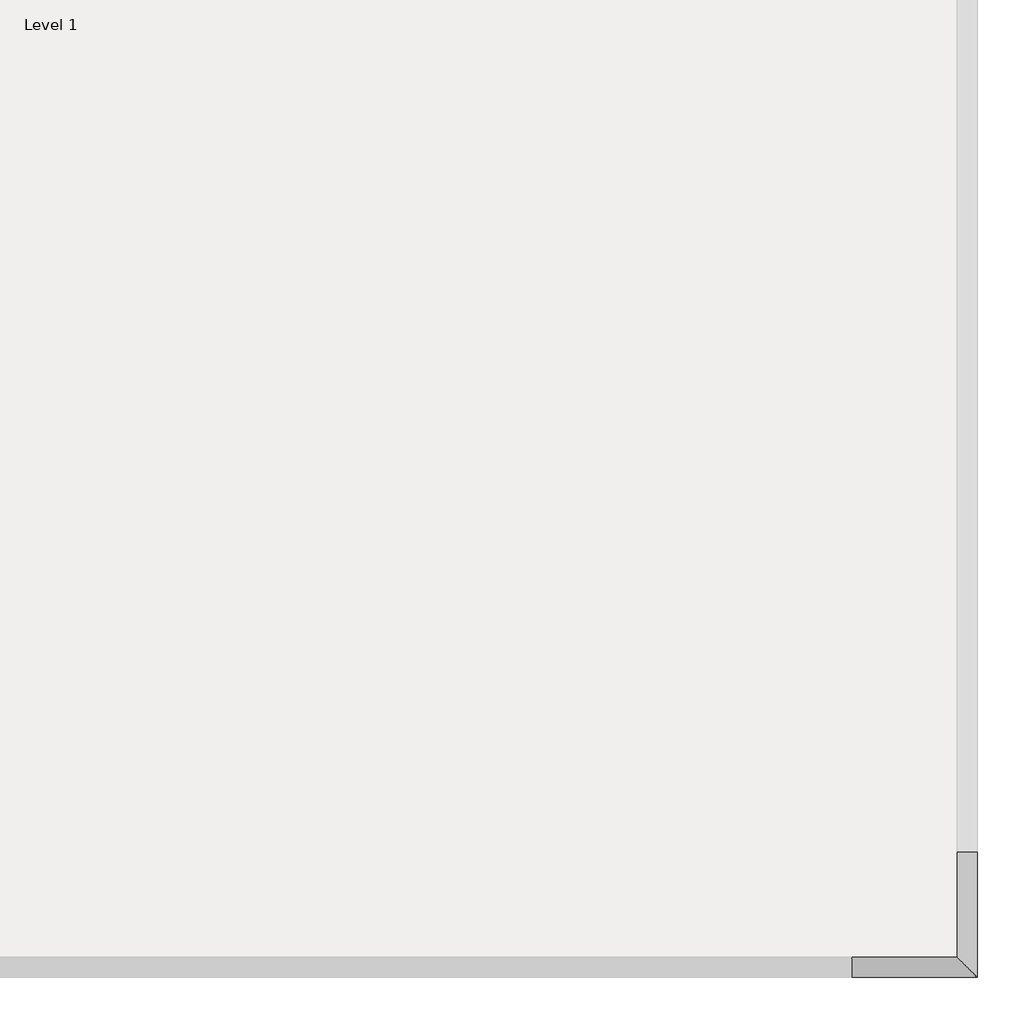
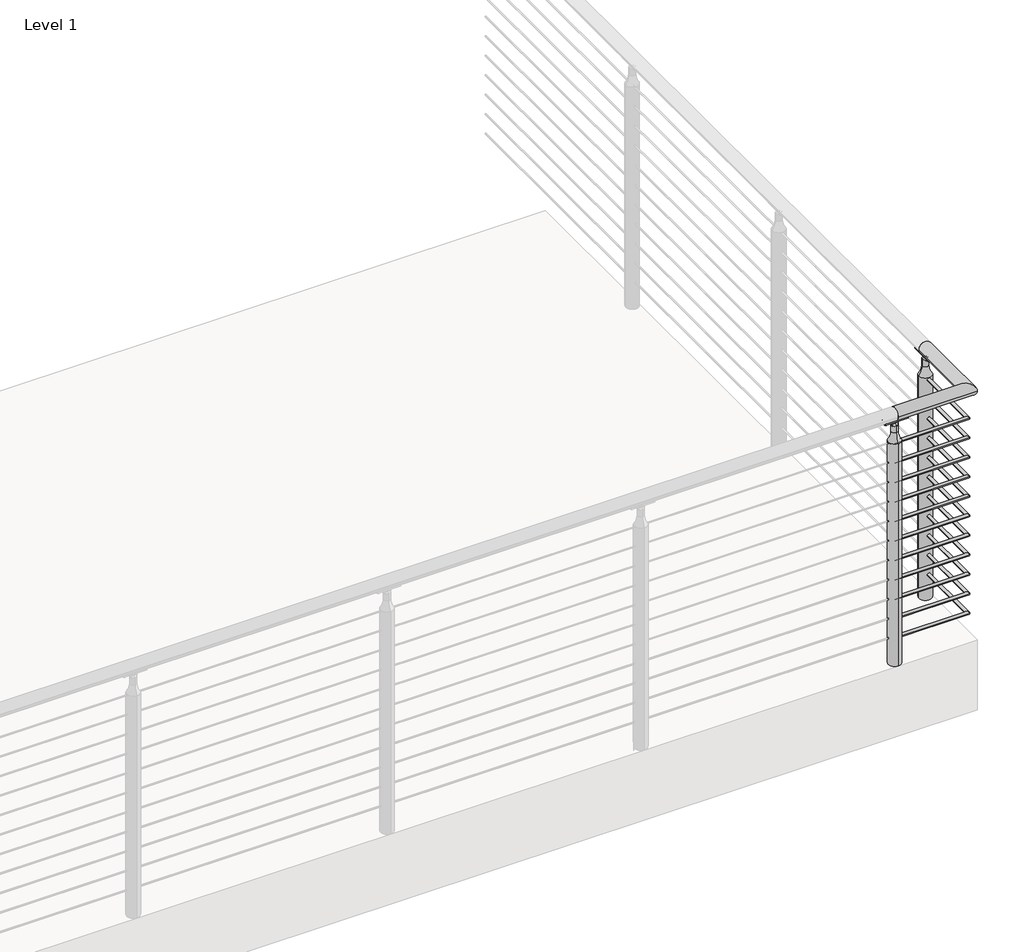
# One storey, part 14 of 21: 1 railing.
"""IFC4 building model written with IfcOpenShell, lengths in millimetres."""

import ifcopenshell
import ifcopenshell.guid

model = None  # the IFC model being written
_history = None  # IfcOwnerHistory: only IFC2X3 demands one
_inside = {}  # id of a spatial element -> (the spatial element, [elements in it])
_under = {}  # id of a project, library or spatial element -> (it, [spatial elements below it])
_declared = {}  # id of a project -> (the project, [libraries it declares])
_typed = {}  # id of a type object -> (the type object, [elements of that type])
_made_of = {}  # id of a material, layer set ... -> (it, [elements and type objects made of it])


def new_model(schema):
    """Start an empty IFC model of exactly this schema.

    Asked for "IFC4X3", IfcOpenShell would pick the latest addendum, in which some entities
    have other attributes; the version numbers below select the first issue.
    IFC2X3 requires an IfcOwnerHistory on every rooted entity: one is made here for all.
    """
    global model, _history
    if schema == "IFC4X3":
        model = ifcopenshell.file(schema_version=(4, 3, 0, 0))
    else:
        model = ifcopenshell.file(schema=schema)
    _inside.clear()
    _under.clear()
    _declared.clear()
    _typed.clear()
    _made_of.clear()
    _history = None
    if model.schema == "IFC2X3":
        org = make("IfcOrganization", Name="unknown")
        user = make(
            "IfcPersonAndOrganization",
            ThePerson=make("IfcPerson", FamilyName="unknown"),
            TheOrganization=org,
        )
        app = make(
            "IfcApplication",
            ApplicationDeveloper=org,
            Version="unknown",
            ApplicationFullName="unknown",
            ApplicationIdentifier="unknown",
        )
        _history = make(
            "IfcOwnerHistory",
            OwningUser=user,
            OwningApplication=app,
            ChangeAction="ADDED",
            CreationDate=0,
        )
    return model


def make(cls, **values):
    """One entity of the class cls with the attributes given. An attribute that is None is left unset."""
    return model.create_entity(
        cls, **{name: value for name, value in values.items() if value is not None}
    )


def rooted(cls, **values):
    """An entity with a GlobalId (a new one), such as an element, a storey or a relation."""
    return make(cls, GlobalId=ifcopenshell.guid.new(), OwnerHistory=_history, **values)


def si_unit(unit_type, name, prefix=None):
    """IfcSIUnit, for example si_unit("LENGTHUNIT", "METRE", prefix="MILLI")."""
    return make("IfcSIUnit", UnitType=unit_type, Prefix=prefix, Name=name)


def assignment(units):
    """IfcUnitAssignment: the units of a project."""
    return None if units is None else make("IfcUnitAssignment", Units=units)


def point(xyz):
    """IfcCartesianPoint."""
    return None if xyz is None else make("IfcCartesianPoint", Coordinates=xyz)


def direction(xyz):
    """IfcDirection."""
    return None if xyz is None else make("IfcDirection", DirectionRatios=xyz)


def frame(location, z_axis=None, x_axis=None):
    """IfcAxis2Placement3D, a coordinate frame: its origin and axes. An axis left out is left unset."""
    return make(
        "IfcAxis2Placement3D",
        Location=point(location),
        Axis=direction(z_axis),
        RefDirection=direction(x_axis),
    )


def frame_2d(location, x_axis=None):
    """IfcAxis2Placement2D, a coordinate frame in the plane: its origin and x axis."""
    return make(
        "IfcAxis2Placement2D", Location=point(location), RefDirection=direction(x_axis)
    )


def origin():
    """The frame at (0, 0, 0) with its axes left unset."""
    return frame((0.0, 0.0, 0.0))


def place(relative_to, where):
    """IfcLocalPlacement: puts the frame where relative to a parent placement (None: the world)."""
    return make(
        "IfcLocalPlacement", PlacementRelTo=relative_to, RelativePlacement=where
    )


def context(
    kind, dimensions, precision=None, world=None, true_north=None, identifier=None
):
    """IfcGeometricRepresentationContext, for example the 3D "Model" context."""
    return make(
        "IfcGeometricRepresentationContext",
        ContextIdentifier=identifier,
        ContextType=kind,
        CoordinateSpaceDimension=dimensions,
        Precision=precision,
        WorldCoordinateSystem=world,
        TrueNorth=true_north,
    )


def project(units=None, contexts=None):
    """IfcProject with its units and contexts."""
    return rooted(
        "IfcProject",
        Name="project",
        RepresentationContexts=contexts,
        UnitsInContext=assignment(units),
    )


def spatial(cls, under=None, at=None, **own):
    """A site, building, storey or space (cls), placed at a placement, below another one or the project."""
    s = rooted(cls, ObjectPlacement=at, **own)
    if under is not None:
        _under.setdefault(under.id(), (under, []))[1].append(s)
    return s


def polyline(points):
    """IfcPolyline through the points."""
    return make("IfcPolyline", Points=[point(p) for p in points])


def circle_curve(where, radius):
    """IfcCircle in the frame where."""
    return make("IfcCircle", Position=where, Radius=radius)


def ellipse_curve(where, semi_axis1, semi_axis2):
    """IfcEllipse in the frame where."""
    return make(
        "IfcEllipse", Position=where, SemiAxis1=semi_axis1, SemiAxis2=semi_axis2
    )


def trimmed(basis, trim1, trim2, sense, master):
    """IfcTrimmedCurve: the piece of a basis curve between two trims."""
    return make(
        "IfcTrimmedCurve",
        BasisCurve=basis,
        Trim1=trim1,
        Trim2=trim2,
        SenseAgreement=sense,
        MasterRepresentation=master,
    )


def segment(curve, same_sense, transition):
    """IfcCompositeCurveSegment."""
    return make(
        "IfcCompositeCurveSegment",
        Transition=transition,
        SameSense=same_sense,
        ParentCurve=curve,
    )


def composite_curve(segments, self_intersect=None):
    """IfcCompositeCurve: segments joined end to end."""
    return make("IfcCompositeCurve", Segments=segments, SelfIntersect=self_intersect)


def outline(outer, holes=None, kind="AREA"):
    """IfcArbitraryClosedProfileDef: a profile drawn as a closed curve; with holes, ...WithVoids."""
    if holes is None:
        return make("IfcArbitraryClosedProfileDef", ProfileType=kind, OuterCurve=outer)
    return make(
        "IfcArbitraryProfileDefWithVoids",
        ProfileType=kind,
        OuterCurve=outer,
        InnerCurves=holes,
    )


def extrude(swept, where, along, depth):
    """IfcExtrudedAreaSolid: the profile swept, set in the frame where, extruded along a direction by depth."""
    return make(
        "IfcExtrudedAreaSolid",
        SweptArea=swept,
        Position=where,
        ExtrudedDirection=direction(along),
        Depth=depth,
    )


def shape(context_of_items, identifier, shape_type, items):
    """IfcShapeRepresentation: the items that make up one representation, for example the "Body"."""
    return make(
        "IfcShapeRepresentation",
        ContextOfItems=context_of_items,
        RepresentationIdentifier=identifier,
        RepresentationType=shape_type,
        Items=items,
    )


def made_of(thing, what):
    """Note that an element or type object is made of a material, layer set ...; save() writes the relation."""
    if what is not None:
        _made_of.setdefault(what.id(), (what, []))[1].append(thing)
    return thing


def element(
    cls,
    number,
    at=None,
    inside=None,
    cuts=None,
    type_object=None,
    material=None,
    context=None,
    identifier="Body",
    shape_type=None,
    held_by="IfcProductDefinitionShape",
    body=None,
    shapes=None,
    **own,
):
    """One element of the class cls, such as IfcWall. Its Tag is "e" and its number.

    at: its placement. inside: the storey or other place that contains it. cuts: it is an
    opening in that element (IfcRelVoidsElement). A single representation is given by context,
    identifier, shape_type and body (its items); several are given by shapes. held_by: the class
    of the entity that holds the representations. save() writes the other relations.
    """
    e = rooted(cls, Tag="e%d" % number, ObjectPlacement=at, **own)
    if body is not None:
        shapes = [shape(context, identifier, shape_type, body)]
    if shapes is not None:
        e.Representation = make(held_by, Representations=shapes)
    if inside is not None:
        _inside.setdefault(inside.id(), (inside, []))[1].append(e)
    if cuts is not None:
        rooted(
            "IfcRelVoidsElement", RelatingBuildingElement=cuts, RelatedOpeningElement=e
        )
    if type_object is not None:
        _typed.setdefault(type_object.id(), (type_object, []))[1].append(e)
    return made_of(e, material)


def aggregate(whole, parts):
    """IfcRelAggregates: a whole, such as a stair, and the parts it consists of."""
    return rooted("IfcRelAggregates", RelatingObject=whole, RelatedObjects=parts)


def save(model, path):
    """Write the relations noted so far, then the file.

    IfcRelAggregates (storeys below a building ...), IfcRelContainedInSpatialStructure (elements
    in a storey), IfcRelDefinesByType, IfcRelAssociatesMaterial and IfcRelDeclares: one each for
    every whole, place, type object, material and project.
    """
    for whole, parts in _under.values():
        aggregate(whole, parts)
    for where, things in _inside.values():
        rooted(
            "IfcRelContainedInSpatialStructure",
            RelatedElements=things,
            RelatingStructure=where,
        )
    for kind, things in _typed.values():
        rooted("IfcRelDefinesByType", RelatedObjects=things, RelatingType=kind)
    for what, things in _made_of.values():
        rooted("IfcRelAssociatesMaterial", RelatedObjects=things, RelatingMaterial=what)
    for by, libraries in _declared.values():
        rooted("IfcRelDeclares", RelatingContext=by, RelatedDefinitions=libraries)
    model.write(path)


def plane_surface(at):
    """IfcPlane: the flat surface through the origin of the frame at, square to its z axis."""
    return make("IfcPlane", Position=at)


def cylinder_surface(at, radius):
    """IfcCylindricalSurface: all points at the distance radius from the z axis of the frame at."""
    return make("IfcCylindricalSurface", Position=at, Radius=radius)


def revolved_surface(curve, axis_point, axis_direction):
    """IfcSurfaceOfRevolution: the curve turned about the line through axis_point along axis_direction."""
    return make(
        "IfcSurfaceOfRevolution",
        SweptCurve=make("IfcArbitraryOpenProfileDef", ProfileType="CURVE", Curve=curve),
        AxisPosition=make("IfcAxis1Placement", Location=point(axis_point), Axis=direction(axis_direction)),
    )


def advanced_brep(points, edges, surfaces, faces):
    """IfcAdvancedBrep: a solid bounded by faces that lie on surfaces and meet in shared edges.

    An edge is (start, end): straight between two places in points (the first is 0);
    or (start, end, curve); or (start, end, curve, False) where it runs against its curve.
    A face is (place in surfaces, loops), or (place, loops, False) where it looks against
    its surface's normal. A loop lists edges by number (the first is 1), with a minus sign
    where the edge is run from its end to its start. The first loop is the outer one.
    """
    corners = [point(p) for p in points]
    vertices = [make("IfcVertexPoint", VertexGeometry=c) for c in corners]
    made = []
    for start, end, *more in edges:
        made.append(
            make(
                "IfcEdgeCurve",
                EdgeStart=vertices[start],
                EdgeEnd=vertices[end],
                EdgeGeometry=more[0] if more else make("IfcPolyline", Points=[corners[start], corners[end]]),
                SameSense=more[1] if len(more) > 1 else True,
            )
        )
    hull = []
    for where, loops, *sense in faces:
        bounds = []
        for j, loop in enumerate(loops):
            ring = [make("IfcOrientedEdge", EdgeElement=made[abs(k) - 1], Orientation=k > 0) for k in loop]
            bounds.append(
                make(
                    "IfcFaceOuterBound" if j == 0 else "IfcFaceBound",
                    Bound=make("IfcEdgeLoop", EdgeList=ring),
                    Orientation=True,
                )
            )
        hull.append(make("IfcAdvancedFace", Bounds=bounds, FaceSurface=surfaces[where], SameSense=sense[0] if sense else True))
    return make("IfcAdvancedBrep", Outer=make("IfcClosedShell", CfsFaces=hull))


model = new_model("IFC4")

# Units and contexts
model_context = context("Model", 3, world=origin())
ifc_project = project(units=[si_unit("LENGTHUNIT", "METRE", prefix="MILLI")], contexts=[model_context])

# Site, building, storey
site = spatial("IfcSite", under=ifc_project)
building = spatial("IfcBuilding", under=site)
storey = spatial("IfcBuildingStorey", under=building, Name="Level 1", Elevation=0.0)

# Railing
placement = place(None, origin())
element("IfcRailing", 1, ObjectType="VIVA-CIRCA-Cable-Weld Mount-Corner", at=placement, inside=storey, context=model_context, shape_type="SolidModel", body=[
    advanced_brep(
    [(45029.2855247, -57184.4334719, 1054.1), (45029.2855247, -57133.6334719, 1054.1), (45346.7855247, -57184.4334719, 1054.1), (45295.9855247, -57133.6334719, 1054.1), (45346.7855247, -56866.9334719, 1054.1), (45295.9855247, -56866.9334719, 1054.1)],
    [
        (0, 1, circle_curve(frame((45029.2855247, -57159.0334719, 1054.1), z_axis=(-1.0, 0.0, 0.0), x_axis=(0.0, 1.0, 0.0)), 25.4)),
        (1, 0, circle_curve(frame((45029.2855247, -57159.0334719, 1054.1), z_axis=(-1.0, 0.0, 0.0), x_axis=(0.0, 1.0, 0.0)), 25.4)),
        (0, 2),
        (2, 3, ellipse_curve(frame((45321.3855247, -57159.0334719, 1054.1), z_axis=(-0.7071067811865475, -0.7071067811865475, 0.0), x_axis=(-0.7071067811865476, 0.7071067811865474, 0.0)), 35.9210245, 25.4)),
        (3, 1),
        (3, 2, ellipse_curve(frame((45321.3855247, -57159.0334719, 1054.1), z_axis=(-0.7071067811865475, -0.7071067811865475, 0.0), x_axis=(-0.7071067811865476, 0.7071067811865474, 0.0)), 35.9210245, 25.4)),
        (4, 5, circle_curve(frame((45321.3855247, -56866.9334719, 1054.1), z_axis=(0.0, 1.0, 0.0), x_axis=(-1.0, 0.0, 0.0)), 25.4)),
        (5, 4, circle_curve(frame((45321.3855247, -56866.9334719, 1054.1), z_axis=(0.0, 1.0, 0.0), x_axis=(-1.0, 0.0, 0.0)), 25.4)),
        (2, 4),
        (5, 3),
    ],
    [
        plane_surface(frame((45029.2855247, -57159.0334719, 1079.5), z_axis=(-1.0, 0.0, 0.0), x_axis=(0.0, 1.0, 0.0))),
        cylinder_surface(frame((45029.2855247, -57159.0334719, 1054.1), z_axis=(-1.0, 0.0, 0.0), x_axis=(0.0, 1.0, 0.0)), 25.4),
        plane_surface(frame((45321.3855247, -56866.9334719, 1079.5), z_axis=(0.0, 1.0, 0.0), x_axis=(0.0, 0.0, 1.0))),
        cylinder_surface(frame((45321.3855247, -57159.0334719, 1054.1), z_axis=(0.0, -1.0, 0.0), x_axis=(-1.0, 0.0, 0.0)), 25.4),
    ],
    [
        (0, [[1, 2]]),
        (1, [[-1, 3, 4, 5]]),
        (1, [[-2, -5, 6, -3]]),
        (2, [[7, 8]]),
        (3, [[-4, 9, -8, 10]]),
        (3, [[-6, -10, -7, -9]]),
    ],
),
    advanced_brep(
    [(45029.2855247, -57152.6834719, 933.45), (45029.2855247, -57165.3834719, 933.45), (45315.0355247, -57152.6834719, 933.45), (45327.7355247, -57165.3834719, 933.45), (45315.0355247, -56866.9334719, 933.45), (45327.7355247, -56866.9334719, 933.45)],
    [
        (0, 1, circle_curve(frame((45029.2855247, -57159.0334719, 933.45), z_axis=(-1.0, 0.0, 0.0), x_axis=(0.0, -1.0, 0.0)), 6.35)),
        (1, 0, circle_curve(frame((45029.2855247, -57159.0334719, 933.45), z_axis=(-1.0, 0.0, 0.0), x_axis=(0.0, -1.0, 0.0)), 6.35)),
        (0, 2),
        (2, 3, ellipse_curve(frame((45321.3855247, -57159.0334719, 933.45), z_axis=(-0.7071067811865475, -0.7071067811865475, 0.0), x_axis=(-0.7071067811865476, 0.7071067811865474, 0.0)), 8.9802561, 6.35)),
        (3, 1),
        (3, 2, ellipse_curve(frame((45321.3855247, -57159.0334719, 933.45), z_axis=(-0.7071067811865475, -0.7071067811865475, 0.0), x_axis=(-0.7071067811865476, 0.7071067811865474, 0.0)), 8.9802561, 6.35)),
        (4, 5, circle_curve(frame((45321.3855247, -56866.9334719, 933.45), z_axis=(0.0, 1.0, 0.0), x_axis=(1.0, 0.0, 0.0)), 6.35)),
        (5, 4, circle_curve(frame((45321.3855247, -56866.9334719, 933.45), z_axis=(0.0, 1.0, 0.0), x_axis=(1.0, 0.0, 0.0)), 6.35)),
        (2, 4),
        (5, 3),
    ],
    [
        plane_surface(frame((45029.2855247, -57159.0334719, 939.8), z_axis=(-1.0, 0.0, 0.0), x_axis=(0.0, 1.0, 0.0))),
        cylinder_surface(frame((45029.2855247, -57159.0334719, 933.45), z_axis=(-1.0, 0.0, 0.0), x_axis=(0.0, -1.0, 0.0)), 6.35),
        plane_surface(frame((45321.3855247, -56866.9334719, 939.8), z_axis=(0.0, 1.0, 0.0), x_axis=(0.0, 0.0, 1.0))),
        cylinder_surface(frame((45321.3855247, -57159.0334719, 933.45), z_axis=(0.0, -1.0, 0.0), x_axis=(1.0, 0.0, 0.0)), 6.35),
    ],
    [
        (0, [[1, 2]]),
        (1, [[-1, 3, 4, 5]]),
        (1, [[-2, -5, 6, -3]]),
        (2, [[7, 8]]),
        (3, [[-4, 9, -8, 10]]),
        (3, [[-6, -10, -7, -9]]),
    ],
),
    advanced_brep(
    [(45029.2855247, -57152.6834719, 850.9), (45029.2855247, -57165.3834719, 850.9), (45315.0355247, -57152.6834719, 850.9), (45327.7355247, -57165.3834719, 850.9), (45315.0355247, -56866.9334719, 850.9), (45327.7355247, -56866.9334719, 850.9)],
    [
        (0, 1, circle_curve(frame((45029.2855247, -57159.0334719, 850.9), z_axis=(-1.0, 0.0, 0.0), x_axis=(0.0, -1.0, 0.0)), 6.35)),
        (1, 0, circle_curve(frame((45029.2855247, -57159.0334719, 850.9), z_axis=(-1.0, 0.0, 0.0), x_axis=(0.0, -1.0, 0.0)), 6.35)),
        (0, 2),
        (2, 3, ellipse_curve(frame((45321.3855247, -57159.0334719, 850.9), z_axis=(-0.7071067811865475, -0.7071067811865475, 0.0), x_axis=(-0.7071067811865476, 0.7071067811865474, 0.0)), 8.9802561, 6.35)),
        (3, 1),
        (3, 2, ellipse_curve(frame((45321.3855247, -57159.0334719, 850.9), z_axis=(-0.7071067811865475, -0.7071067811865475, 0.0), x_axis=(-0.7071067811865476, 0.7071067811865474, 0.0)), 8.9802561, 6.35)),
        (4, 5, circle_curve(frame((45321.3855247, -56866.9334719, 850.9), z_axis=(0.0, 1.0, 0.0), x_axis=(1.0, 0.0, 0.0)), 6.35)),
        (5, 4, circle_curve(frame((45321.3855247, -56866.9334719, 850.9), z_axis=(0.0, 1.0, 0.0), x_axis=(1.0, 0.0, 0.0)), 6.35)),
        (2, 4),
        (5, 3),
    ],
    [
        plane_surface(frame((45029.2855247, -57159.0334719, 857.25), z_axis=(-1.0, 0.0, 0.0), x_axis=(0.0, 1.0, 0.0))),
        cylinder_surface(frame((45029.2855247, -57159.0334719, 850.9), z_axis=(-1.0, 0.0, 0.0), x_axis=(0.0, -1.0, 0.0)), 6.35),
        plane_surface(frame((45321.3855247, -56866.9334719, 857.25), z_axis=(0.0, 1.0, 0.0), x_axis=(0.0, 0.0, 1.0))),
        cylinder_surface(frame((45321.3855247, -57159.0334719, 850.9), z_axis=(0.0, -1.0, 0.0), x_axis=(1.0, 0.0, 0.0)), 6.35),
    ],
    [
        (0, [[1, 2]]),
        (1, [[-1, 3, 4, 5]]),
        (1, [[-2, -5, 6, -3]]),
        (2, [[7, 8]]),
        (3, [[-4, 9, -8, 10]]),
        (3, [[-6, -10, -7, -9]]),
    ],
),
    advanced_brep(
    [(45029.2855247, -57152.6834719, 768.35), (45029.2855247, -57165.3834719, 768.35), (45315.0355247, -57152.6834719, 768.35), (45327.7355247, -57165.3834719, 768.35), (45315.0355247, -56866.9334719, 768.35), (45327.7355247, -56866.9334719, 768.35)],
    [
        (0, 1, circle_curve(frame((45029.2855247, -57159.0334719, 768.35), z_axis=(-1.0, 0.0, 0.0), x_axis=(0.0, -1.0, 0.0)), 6.35)),
        (1, 0, circle_curve(frame((45029.2855247, -57159.0334719, 768.35), z_axis=(-1.0, 0.0, 0.0), x_axis=(0.0, -1.0, 0.0)), 6.35)),
        (0, 2),
        (2, 3, ellipse_curve(frame((45321.3855247, -57159.0334719, 768.35), z_axis=(-0.7071067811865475, -0.7071067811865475, 0.0), x_axis=(-0.7071067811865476, 0.7071067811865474, 0.0)), 8.9802561, 6.35)),
        (3, 1),
        (3, 2, ellipse_curve(frame((45321.3855247, -57159.0334719, 768.35), z_axis=(-0.7071067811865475, -0.7071067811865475, 0.0), x_axis=(-0.7071067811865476, 0.7071067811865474, 0.0)), 8.9802561, 6.35)),
        (4, 5, circle_curve(frame((45321.3855247, -56866.9334719, 768.35), z_axis=(0.0, 1.0, 0.0), x_axis=(1.0, 0.0, 0.0)), 6.35)),
        (5, 4, circle_curve(frame((45321.3855247, -56866.9334719, 768.35), z_axis=(0.0, 1.0, 0.0), x_axis=(1.0, 0.0, 0.0)), 6.35)),
        (2, 4),
        (5, 3),
    ],
    [
        plane_surface(frame((45029.2855247, -57159.0334719, 774.7), z_axis=(-1.0, 0.0, 0.0), x_axis=(0.0, 1.0, 0.0))),
        cylinder_surface(frame((45029.2855247, -57159.0334719, 768.35), z_axis=(-1.0, 0.0, 0.0), x_axis=(0.0, -1.0, 0.0)), 6.35),
        plane_surface(frame((45321.3855247, -56866.9334719, 774.7), z_axis=(0.0, 1.0, 0.0), x_axis=(0.0, 0.0, 1.0))),
        cylinder_surface(frame((45321.3855247, -57159.0334719, 768.35), z_axis=(0.0, -1.0, 0.0), x_axis=(1.0, 0.0, 0.0)), 6.35),
    ],
    [
        (0, [[1, 2]]),
        (1, [[-1, 3, 4, 5]]),
        (1, [[-2, -5, 6, -3]]),
        (2, [[7, 8]]),
        (3, [[-4, 9, -8, 10]]),
        (3, [[-6, -10, -7, -9]]),
    ],
),
    advanced_brep(
    [(45029.2855247, -57152.6834719, 685.8), (45029.2855247, -57165.3834719, 685.8), (45315.0355247, -57152.6834719, 685.8), (45327.7355247, -57165.3834719, 685.8), (45315.0355247, -56866.9334719, 685.8), (45327.7355247, -56866.9334719, 685.8)],
    [
        (0, 1, circle_curve(frame((45029.2855247, -57159.0334719, 685.8), z_axis=(-1.0, 0.0, 0.0), x_axis=(0.0, -1.0, 0.0)), 6.35)),
        (1, 0, circle_curve(frame((45029.2855247, -57159.0334719, 685.8), z_axis=(-1.0, 0.0, 0.0), x_axis=(0.0, -1.0, 0.0)), 6.35)),
        (0, 2),
        (2, 3, ellipse_curve(frame((45321.3855247, -57159.0334719, 685.8), z_axis=(-0.7071067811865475, -0.7071067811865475, 0.0), x_axis=(-0.7071067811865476, 0.7071067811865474, 0.0)), 8.9802561, 6.35)),
        (3, 1),
        (3, 2, ellipse_curve(frame((45321.3855247, -57159.0334719, 685.8), z_axis=(-0.7071067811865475, -0.7071067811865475, 0.0), x_axis=(-0.7071067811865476, 0.7071067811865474, 0.0)), 8.9802561, 6.35)),
        (4, 5, circle_curve(frame((45321.3855247, -56866.9334719, 685.8), z_axis=(0.0, 1.0, 0.0), x_axis=(1.0, 0.0, 0.0)), 6.35)),
        (5, 4, circle_curve(frame((45321.3855247, -56866.9334719, 685.8), z_axis=(0.0, 1.0, 0.0), x_axis=(1.0, 0.0, 0.0)), 6.35)),
        (2, 4),
        (5, 3),
    ],
    [
        plane_surface(frame((45029.2855247, -57159.0334719, 692.15), z_axis=(-1.0, 0.0, 0.0), x_axis=(0.0, 1.0, 0.0))),
        cylinder_surface(frame((45029.2855247, -57159.0334719, 685.8), z_axis=(-1.0, 0.0, 0.0), x_axis=(0.0, -1.0, 0.0)), 6.35),
        plane_surface(frame((45321.3855247, -56866.9334719, 692.15), z_axis=(0.0, 1.0, 0.0), x_axis=(0.0, 0.0, 1.0))),
        cylinder_surface(frame((45321.3855247, -57159.0334719, 685.8), z_axis=(0.0, -1.0, 0.0), x_axis=(1.0, 0.0, 0.0)), 6.35),
    ],
    [
        (0, [[1, 2]]),
        (1, [[-1, 3, 4, 5]]),
        (1, [[-2, -5, 6, -3]]),
        (2, [[7, 8]]),
        (3, [[-4, 9, -8, 10]]),
        (3, [[-6, -10, -7, -9]]),
    ],
),
    advanced_brep(
    [(45029.2855247, -57152.6834719, 603.25), (45029.2855247, -57165.3834719, 603.25), (45315.0355247, -57152.6834719, 603.25), (45327.7355247, -57165.3834719, 603.25), (45315.0355247, -56866.9334719, 603.25), (45327.7355247, -56866.9334719, 603.25)],
    [
        (0, 1, circle_curve(frame((45029.2855247, -57159.0334719, 603.25), z_axis=(-1.0, 0.0, 0.0), x_axis=(0.0, -1.0, 0.0)), 6.35)),
        (1, 0, circle_curve(frame((45029.2855247, -57159.0334719, 603.25), z_axis=(-1.0, 0.0, 0.0), x_axis=(0.0, -1.0, 0.0)), 6.35)),
        (0, 2),
        (2, 3, ellipse_curve(frame((45321.3855247, -57159.0334719, 603.25), z_axis=(-0.7071067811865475, -0.7071067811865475, 0.0), x_axis=(-0.7071067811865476, 0.7071067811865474, 0.0)), 8.9802561, 6.35)),
        (3, 1),
        (3, 2, ellipse_curve(frame((45321.3855247, -57159.0334719, 603.25), z_axis=(-0.7071067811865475, -0.7071067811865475, 0.0), x_axis=(-0.7071067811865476, 0.7071067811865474, 0.0)), 8.9802561, 6.35)),
        (4, 5, circle_curve(frame((45321.3855247, -56866.9334719, 603.25), z_axis=(0.0, 1.0, 0.0), x_axis=(1.0, 0.0, 0.0)), 6.35)),
        (5, 4, circle_curve(frame((45321.3855247, -56866.9334719, 603.25), z_axis=(0.0, 1.0, 0.0), x_axis=(1.0, 0.0, 0.0)), 6.35)),
        (2, 4),
        (5, 3),
    ],
    [
        plane_surface(frame((45029.2855247, -57159.0334719, 609.6), z_axis=(-1.0, 0.0, 0.0), x_axis=(0.0, 1.0, 0.0))),
        cylinder_surface(frame((45029.2855247, -57159.0334719, 603.25), z_axis=(-1.0, 0.0, 0.0), x_axis=(0.0, -1.0, 0.0)), 6.35),
        plane_surface(frame((45321.3855247, -56866.9334719, 609.6), z_axis=(0.0, 1.0, 0.0), x_axis=(0.0, 0.0, 1.0))),
        cylinder_surface(frame((45321.3855247, -57159.0334719, 603.25), z_axis=(0.0, -1.0, 0.0), x_axis=(1.0, 0.0, 0.0)), 6.35),
    ],
    [
        (0, [[1, 2]]),
        (1, [[-1, 3, 4, 5]]),
        (1, [[-2, -5, 6, -3]]),
        (2, [[7, 8]]),
        (3, [[-4, 9, -8, 10]]),
        (3, [[-6, -10, -7, -9]]),
    ],
),
    advanced_brep(
    [(45029.2855247, -57152.6834719, 520.7), (45029.2855247, -57165.3834719, 520.7), (45315.0355247, -57152.6834719, 520.7), (45327.7355247, -57165.3834719, 520.7), (45315.0355247, -56866.9334719, 520.7), (45327.7355247, -56866.9334719, 520.7)],
    [
        (0, 1, circle_curve(frame((45029.2855247, -57159.0334719, 520.7), z_axis=(-1.0, 0.0, 0.0), x_axis=(0.0, -1.0, 0.0)), 6.35)),
        (1, 0, circle_curve(frame((45029.2855247, -57159.0334719, 520.7), z_axis=(-1.0, 0.0, 0.0), x_axis=(0.0, -1.0, 0.0)), 6.35)),
        (0, 2),
        (2, 3, ellipse_curve(frame((45321.3855247, -57159.0334719, 520.7), z_axis=(-0.7071067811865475, -0.7071067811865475, 0.0), x_axis=(-0.7071067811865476, 0.7071067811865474, 0.0)), 8.9802561, 6.35)),
        (3, 1),
        (3, 2, ellipse_curve(frame((45321.3855247, -57159.0334719, 520.7), z_axis=(-0.7071067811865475, -0.7071067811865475, 0.0), x_axis=(-0.7071067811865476, 0.7071067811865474, 0.0)), 8.9802561, 6.35)),
        (4, 5, circle_curve(frame((45321.3855247, -56866.9334719, 520.7), z_axis=(0.0, 1.0, 0.0), x_axis=(1.0, 0.0, 0.0)), 6.35)),
        (5, 4, circle_curve(frame((45321.3855247, -56866.9334719, 520.7), z_axis=(0.0, 1.0, 0.0), x_axis=(1.0, 0.0, 0.0)), 6.35)),
        (2, 4),
        (5, 3),
    ],
    [
        plane_surface(frame((45029.2855247, -57159.0334719, 527.05), z_axis=(-1.0, 0.0, 0.0), x_axis=(0.0, 1.0, 0.0))),
        cylinder_surface(frame((45029.2855247, -57159.0334719, 520.7), z_axis=(-1.0, 0.0, 0.0), x_axis=(0.0, -1.0, 0.0)), 6.35),
        plane_surface(frame((45321.3855247, -56866.9334719, 527.05), z_axis=(0.0, 1.0, 0.0), x_axis=(0.0, 0.0, 1.0))),
        cylinder_surface(frame((45321.3855247, -57159.0334719, 520.7), z_axis=(0.0, -1.0, 0.0), x_axis=(1.0, 0.0, 0.0)), 6.35),
    ],
    [
        (0, [[1, 2]]),
        (1, [[-1, 3, 4, 5]]),
        (1, [[-2, -5, 6, -3]]),
        (2, [[7, 8]]),
        (3, [[-4, 9, -8, 10]]),
        (3, [[-6, -10, -7, -9]]),
    ],
),
    advanced_brep(
    [(45029.2855247, -57152.6834719, 438.15), (45029.2855247, -57165.3834719, 438.15), (45315.0355247, -57152.6834719, 438.15), (45327.7355247, -57165.3834719, 438.15), (45315.0355247, -56866.9334719, 438.15), (45327.7355247, -56866.9334719, 438.15)],
    [
        (0, 1, circle_curve(frame((45029.2855247, -57159.0334719, 438.15), z_axis=(-1.0, 0.0, 0.0), x_axis=(0.0, -1.0, 0.0)), 6.35)),
        (1, 0, circle_curve(frame((45029.2855247, -57159.0334719, 438.15), z_axis=(-1.0, 0.0, 0.0), x_axis=(0.0, -1.0, 0.0)), 6.35)),
        (0, 2),
        (2, 3, ellipse_curve(frame((45321.3855247, -57159.0334719, 438.15), z_axis=(-0.7071067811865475, -0.7071067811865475, 0.0), x_axis=(-0.7071067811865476, 0.7071067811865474, 0.0)), 8.9802561, 6.35)),
        (3, 1),
        (3, 2, ellipse_curve(frame((45321.3855247, -57159.0334719, 438.15), z_axis=(-0.7071067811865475, -0.7071067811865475, 0.0), x_axis=(-0.7071067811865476, 0.7071067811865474, 0.0)), 8.9802561, 6.35)),
        (4, 5, circle_curve(frame((45321.3855247, -56866.9334719, 438.15), z_axis=(0.0, 1.0, 0.0), x_axis=(1.0, 0.0, 0.0)), 6.35)),
        (5, 4, circle_curve(frame((45321.3855247, -56866.9334719, 438.15), z_axis=(0.0, 1.0, 0.0), x_axis=(1.0, 0.0, 0.0)), 6.35)),
        (2, 4),
        (5, 3),
    ],
    [
        plane_surface(frame((45029.2855247, -57159.0334719, 444.5), z_axis=(-1.0, 0.0, 0.0), x_axis=(0.0, 1.0, 0.0))),
        cylinder_surface(frame((45029.2855247, -57159.0334719, 438.15), z_axis=(-1.0, 0.0, 0.0), x_axis=(0.0, -1.0, 0.0)), 6.35),
        plane_surface(frame((45321.3855247, -56866.9334719, 444.5), z_axis=(0.0, 1.0, 0.0), x_axis=(0.0, 0.0, 1.0))),
        cylinder_surface(frame((45321.3855247, -57159.0334719, 438.15), z_axis=(0.0, -1.0, 0.0), x_axis=(1.0, 0.0, 0.0)), 6.35),
    ],
    [
        (0, [[1, 2]]),
        (1, [[-1, 3, 4, 5]]),
        (1, [[-2, -5, 6, -3]]),
        (2, [[7, 8]]),
        (3, [[-4, 9, -8, 10]]),
        (3, [[-6, -10, -7, -9]]),
    ],
),
    advanced_brep(
    [(45029.2855247, -57152.6834719, 355.6), (45029.2855247, -57165.3834719, 355.6), (45315.0355247, -57152.6834719, 355.6), (45327.7355247, -57165.3834719, 355.6), (45315.0355247, -56866.9334719, 355.6), (45327.7355247, -56866.9334719, 355.6)],
    [
        (0, 1, circle_curve(frame((45029.2855247, -57159.0334719, 355.6), z_axis=(-1.0, 0.0, 0.0), x_axis=(0.0, -1.0, 0.0)), 6.35)),
        (1, 0, circle_curve(frame((45029.2855247, -57159.0334719, 355.6), z_axis=(-1.0, 0.0, 0.0), x_axis=(0.0, -1.0, 0.0)), 6.35)),
        (0, 2),
        (2, 3, ellipse_curve(frame((45321.3855247, -57159.0334719, 355.6), z_axis=(-0.7071067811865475, -0.7071067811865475, 0.0), x_axis=(-0.7071067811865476, 0.7071067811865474, 0.0)), 8.9802561, 6.35)),
        (3, 1),
        (3, 2, ellipse_curve(frame((45321.3855247, -57159.0334719, 355.6), z_axis=(-0.7071067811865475, -0.7071067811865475, 0.0), x_axis=(-0.7071067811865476, 0.7071067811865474, 0.0)), 8.9802561, 6.35)),
        (4, 5, circle_curve(frame((45321.3855247, -56866.9334719, 355.6), z_axis=(0.0, 1.0, 0.0), x_axis=(1.0, 0.0, 0.0)), 6.35)),
        (5, 4, circle_curve(frame((45321.3855247, -56866.9334719, 355.6), z_axis=(0.0, 1.0, 0.0), x_axis=(1.0, 0.0, 0.0)), 6.35)),
        (2, 4),
        (5, 3),
    ],
    [
        plane_surface(frame((45029.2855247, -57159.0334719, 361.95), z_axis=(-1.0, 0.0, 0.0), x_axis=(0.0, 1.0, 0.0))),
        cylinder_surface(frame((45029.2855247, -57159.0334719, 355.6), z_axis=(-1.0, 0.0, 0.0), x_axis=(0.0, -1.0, 0.0)), 6.35),
        plane_surface(frame((45321.3855247, -56866.9334719, 361.95), z_axis=(0.0, 1.0, 0.0), x_axis=(0.0, 0.0, 1.0))),
        cylinder_surface(frame((45321.3855247, -57159.0334719, 355.6), z_axis=(0.0, -1.0, 0.0), x_axis=(1.0, 0.0, 0.0)), 6.35),
    ],
    [
        (0, [[1, 2]]),
        (1, [[-1, 3, 4, 5]]),
        (1, [[-2, -5, 6, -3]]),
        (2, [[7, 8]]),
        (3, [[-4, 9, -8, 10]]),
        (3, [[-6, -10, -7, -9]]),
    ],
),
    advanced_brep(
    [(45029.2855247, -57152.6834719, 273.05), (45029.2855247, -57165.3834719, 273.05), (45315.0355247, -57152.6834719, 273.05), (45327.7355247, -57165.3834719, 273.05), (45315.0355247, -56866.9334719, 273.05), (45327.7355247, -56866.9334719, 273.05)],
    [
        (0, 1, circle_curve(frame((45029.2855247, -57159.0334719, 273.05), z_axis=(-1.0, 0.0, 0.0), x_axis=(0.0, -1.0, 0.0)), 6.35)),
        (1, 0, circle_curve(frame((45029.2855247, -57159.0334719, 273.05), z_axis=(-1.0, 0.0, 0.0), x_axis=(0.0, -1.0, 0.0)), 6.35)),
        (0, 2),
        (2, 3, ellipse_curve(frame((45321.3855247, -57159.0334719, 273.05), z_axis=(-0.7071067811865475, -0.7071067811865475, 0.0), x_axis=(-0.7071067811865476, 0.7071067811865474, 0.0)), 8.9802561, 6.35)),
        (3, 1),
        (3, 2, ellipse_curve(frame((45321.3855247, -57159.0334719, 273.05), z_axis=(-0.7071067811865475, -0.7071067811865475, 0.0), x_axis=(-0.7071067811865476, 0.7071067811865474, 0.0)), 8.9802561, 6.35)),
        (4, 5, circle_curve(frame((45321.3855247, -56866.9334719, 273.05), z_axis=(0.0, 1.0, 0.0), x_axis=(1.0, 0.0, 0.0)), 6.35)),
        (5, 4, circle_curve(frame((45321.3855247, -56866.9334719, 273.05), z_axis=(0.0, 1.0, 0.0), x_axis=(1.0, 0.0, 0.0)), 6.35)),
        (2, 4),
        (5, 3),
    ],
    [
        plane_surface(frame((45029.2855247, -57159.0334719, 279.4), z_axis=(-1.0, 0.0, 0.0), x_axis=(0.0, 1.0, 0.0))),
        cylinder_surface(frame((45029.2855247, -57159.0334719, 273.05), z_axis=(-1.0, 0.0, 0.0), x_axis=(0.0, -1.0, 0.0)), 6.35),
        plane_surface(frame((45321.3855247, -56866.9334719, 279.4), z_axis=(0.0, 1.0, 0.0), x_axis=(0.0, 0.0, 1.0))),
        cylinder_surface(frame((45321.3855247, -57159.0334719, 273.05), z_axis=(0.0, -1.0, 0.0), x_axis=(1.0, 0.0, 0.0)), 6.35),
    ],
    [
        (0, [[1, 2]]),
        (1, [[-1, 3, 4, 5]]),
        (1, [[-2, -5, 6, -3]]),
        (2, [[7, 8]]),
        (3, [[-4, 9, -8, 10]]),
        (3, [[-6, -10, -7, -9]]),
    ],
),
    advanced_brep(
    [(45029.2855247, -57152.6834719, 190.5), (45029.2855247, -57165.3834719, 190.5), (45315.0355247, -57152.6834719, 190.5), (45327.7355247, -57165.3834719, 190.5), (45315.0355247, -56866.9334719, 190.5), (45327.7355247, -56866.9334719, 190.5)],
    [
        (0, 1, circle_curve(frame((45029.2855247, -57159.0334719, 190.5), z_axis=(-1.0, 0.0, 0.0), x_axis=(0.0, -1.0, 0.0)), 6.35)),
        (1, 0, circle_curve(frame((45029.2855247, -57159.0334719, 190.5), z_axis=(-1.0, 0.0, 0.0), x_axis=(0.0, -1.0, 0.0)), 6.35)),
        (0, 2),
        (2, 3, ellipse_curve(frame((45321.3855247, -57159.0334719, 190.5), z_axis=(-0.7071067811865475, -0.7071067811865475, 0.0), x_axis=(-0.7071067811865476, 0.7071067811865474, 0.0)), 8.9802561, 6.35)),
        (3, 1),
        (3, 2, ellipse_curve(frame((45321.3855247, -57159.0334719, 190.5), z_axis=(-0.7071067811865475, -0.7071067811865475, 0.0), x_axis=(-0.7071067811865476, 0.7071067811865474, 0.0)), 8.9802561, 6.35)),
        (4, 5, circle_curve(frame((45321.3855247, -56866.9334719, 190.5), z_axis=(0.0, 1.0, 0.0), x_axis=(1.0, 0.0, 0.0)), 6.35)),
        (5, 4, circle_curve(frame((45321.3855247, -56866.9334719, 190.5), z_axis=(0.0, 1.0, 0.0), x_axis=(1.0, 0.0, 0.0)), 6.35)),
        (2, 4),
        (5, 3),
    ],
    [
        plane_surface(frame((45029.2855247, -57159.0334719, 196.85), z_axis=(-1.0, 0.0, 0.0), x_axis=(0.0, 1.0, 0.0))),
        cylinder_surface(frame((45029.2855247, -57159.0334719, 190.5), z_axis=(-1.0, 0.0, 0.0), x_axis=(0.0, -1.0, 0.0)), 6.35),
        plane_surface(frame((45321.3855247, -56866.9334719, 196.85), z_axis=(0.0, 1.0, 0.0), x_axis=(0.0, 0.0, 1.0))),
        cylinder_surface(frame((45321.3855247, -57159.0334719, 190.5), z_axis=(0.0, -1.0, 0.0), x_axis=(1.0, 0.0, 0.0)), 6.35),
    ],
    [
        (0, [[1, 2]]),
        (1, [[-1, 3, 4, 5]]),
        (1, [[-2, -5, 6, -3]]),
        (2, [[7, 8]]),
        (3, [[-4, 9, -8, 10]]),
        (3, [[-6, -10, -7, -9]]),
    ],
),
    advanced_brep(
    [(45029.2855247, -57152.6834719, 107.95), (45029.2855247, -57165.3834719, 107.95), (45315.0355247, -57152.6834719, 107.95), (45327.7355247, -57165.3834719, 107.95), (45315.0355247, -56866.9334719, 107.95), (45327.7355247, -56866.9334719, 107.95)],
    [
        (0, 1, circle_curve(frame((45029.2855247, -57159.0334719, 107.95), z_axis=(-1.0, 0.0, 0.0), x_axis=(0.0, -1.0, 0.0)), 6.35)),
        (1, 0, circle_curve(frame((45029.2855247, -57159.0334719, 107.95), z_axis=(-1.0, 0.0, 0.0), x_axis=(0.0, -1.0, 0.0)), 6.35)),
        (0, 2),
        (2, 3, ellipse_curve(frame((45321.3855247, -57159.0334719, 107.95), z_axis=(-0.7071067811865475, -0.7071067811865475, 0.0), x_axis=(-0.7071067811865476, 0.7071067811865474, 0.0)), 8.9802561, 6.35)),
        (3, 1),
        (3, 2, ellipse_curve(frame((45321.3855247, -57159.0334719, 107.95), z_axis=(-0.7071067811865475, -0.7071067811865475, 0.0), x_axis=(-0.7071067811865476, 0.7071067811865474, 0.0)), 8.9802561, 6.35)),
        (4, 5, circle_curve(frame((45321.3855247, -56866.9334719, 107.95), z_axis=(0.0, 1.0, 0.0), x_axis=(1.0, 0.0, 0.0)), 6.35)),
        (5, 4, circle_curve(frame((45321.3855247, -56866.9334719, 107.95), z_axis=(0.0, 1.0, 0.0), x_axis=(1.0, 0.0, 0.0)), 6.35)),
        (2, 4),
        (5, 3),
    ],
    [
        plane_surface(frame((45029.2855247, -57159.0334719, 114.3), z_axis=(-1.0, 0.0, 0.0), x_axis=(0.0, 1.0, 0.0))),
        cylinder_surface(frame((45029.2855247, -57159.0334719, 107.95), z_axis=(-1.0, 0.0, 0.0), x_axis=(0.0, -1.0, 0.0)), 6.35),
        plane_surface(frame((45321.3855247, -56866.9334719, 114.3), z_axis=(0.0, 1.0, 0.0), x_axis=(0.0, 0.0, 1.0))),
        cylinder_surface(frame((45321.3855247, -57159.0334719, 107.95), z_axis=(0.0, -1.0, 0.0), x_axis=(1.0, 0.0, 0.0)), 6.35),
    ],
    [
        (0, [[1, 2]]),
        (1, [[-1, 3, 4, 5]]),
        (1, [[-2, -5, 6, -3]]),
        (2, [[7, 8]]),
        (3, [[-4, 9, -8, 10]]),
        (3, [[-6, -10, -7, -9]]),
    ],
),
    extrude(outline(composite_curve([segment(trimmed(circle_curve(frame_2d((1055.4254922, 45321.2887963)), 25.4345159), [point((1033.3106679, 45333.8525992))], [point((1033.2157471, 45308.8935626))], True, "CARTESIAN"), True, "CONTINUOUS"), segment(trimmed(circle_curve(frame_2d((1030.7132623, 45307.6489094)), 2.7949225), [point((1033.2157471, 45308.8935626))], [point((1028.3406769, 45306.1716044))], False, "CARTESIAN"), True, "CONTINUOUS"), segment(trimmed(circle_curve(frame_2d((1056.1881188, 45321.4222594)), 31.75), [point((1028.3406769, 45306.1716044))], [point((1028.9214354, 45337.6884966))], False, "CARTESIAN"), True, "CONTINUOUS"), segment(trimmed(circle_curve(frame_2d((1030.7923545, 45335.4001569)), 2.9558141), [point((1028.9214354, 45337.6884966))], [point((1033.3106679, 45333.8525992))], False, "CARTESIAN"), True, "CONTINUOUS")], self_intersect=False)), frame((0.0, -56911.7739969, 0.0), z_axis=(0.0, 1.0, 0.0), x_axis=(0.0, 0.0, 1.0)), (0.0, 0.0, 1.0), 90.4748),
    extrude(outline(composite_curve([segment(trimmed(circle_curve(frame_2d((-56839.468682, 1010.282776)), 14.3679149), [point((-56839.468682, 1024.6506908))], [point((-56853.8365969, 1010.282776))], True, "CARTESIAN"), True, "CONTINUOUS"), segment(trimmed(circle_curve(frame_2d((-56866.5365969, 1010.282776)), 12.7), [point((-56853.8365969, 1010.282776))], [point((-56879.2365969, 1010.282776))], False, "CARTESIAN"), True, "CONTINUOUS"), segment(trimmed(circle_curve(frame_2d((-56893.6045117, 1010.282776)), 14.3679149), [point((-56879.2365969, 1010.282776))], [point((-56893.6045117, 1024.6506908))], True, "CARTESIAN"), True, "CONTINUOUS"), segment(polyline([(-56893.6045117, 1024.6506908), (-56839.468682, 1024.6506908)]), True, "CONTINUOUS")], self_intersect=False)), frame((45318.8455247, 0.0, 0.0), z_axis=(1.0, 0.0, 0.0), x_axis=(0.0, 1.0, 0.0)), (0.0, 0.0, 1.0), 5.08),
    advanced_brep(
    [(45346.7849225, -56866.5365969, 941.1347854), (45295.9861269, -56866.5365969, 941.1347854), (45295.9861269, -56866.5365969, -88.9), (45346.7849225, -56866.5365969, -88.9), (45334.1234932, -56866.5365969, 979.3486202), (45308.6475562, -56866.5365969, 979.3486202), (45334.1234932, -56866.5365969, 1008.5779599), (45308.6475562, -56866.5365969, 1008.5779599), (45321.3855247, -56866.5365969, 1015.238668), (45321.3855247, -56866.5365969, -88.9)],
    [
        (0, 1, circle_curve(frame((45321.3855247, -56866.5365969, 941.1347854), z_axis=(0.0, 0.0, -1.0), x_axis=(-1.0, 0.0, 0.0)), 25.3993978)),
        (1, 2),
        (2, 3, circle_curve(frame((45321.3855247, -56866.5365969, -88.9), z_axis=(0.0, 0.0, 1.0), x_axis=(-1.0, 0.0, 0.0)), 25.3993978)),
        (3, 0),
        (1, 0, circle_curve(frame((45321.3855247, -56866.5365969, 941.1347854), z_axis=(0.0, 0.0, -1.0), x_axis=(-1.0, 0.0, 0.0)), 25.3993978)),
        (3, 2, circle_curve(frame((45321.3855247, -56866.5365969, -88.9), z_axis=(0.0, 0.0, 1.0), x_axis=(-1.0, 0.0, 0.0)), 25.3993978)),
        (4, 5, circle_curve(frame((45321.3855247, -56866.5365969, 979.3486202), z_axis=(0.0, 0.0, -1.0), x_axis=(-1.0, 0.0, 0.0)), 12.7379685)),
        (5, 1, circle_curve(frame((45244.6496879, -56866.5365969, 979.3486202), z_axis=(0.0, 1.0, 0.0), x_axis=(-1.0, 0.0, 0.0)), 63.9978683)),
        (0, 4, circle_curve(frame((45398.1213615, -56866.5365969, 979.3486202), z_axis=(0.0, 1.0, 0.0), x_axis=(1.0, 0.0, 0.0)), 63.9978683)),
        (5, 4, circle_curve(frame((45321.3855247, -56866.5365969, 979.3486202), z_axis=(0.0, 0.0, -1.0), x_axis=(-1.0, 0.0, 0.0)), 12.7379685)),
        (6, 7, circle_curve(frame((45321.3855247, -56866.5365969, 1008.5779599), z_axis=(0.0, 0.0, -1.0), x_axis=(-1.0, 0.0, 0.0)), 12.7379685)),
        (7, 5),
        (4, 6),
        (7, 6, circle_curve(frame((45321.3855247, -56866.5365969, 1008.5779599), z_axis=(0.0, 0.0, -1.0), x_axis=(-1.0, 0.0, 0.0)), 12.7379685)),
        (8, 7, circle_curve(frame((45321.3855247, -56866.5365969, 999.7282394), z_axis=(0.0, -1.0, 0.0), x_axis=(-1.0, 0.0, 0.0)), 15.5104286)),
        (6, 8, circle_curve(frame((45321.3855247, -56866.5365969, 999.7282394), z_axis=(0.0, -1.0, 0.0), x_axis=(1.0, 0.0, 0.0)), 15.5104286)),
        (2, 9),
        (9, 3),
    ],
    [
        cylinder_surface(frame((45321.3855247, -56866.5365969, 1104.9), z_axis=(0.0, 0.0, 1.0), x_axis=(-1.0, 0.0, 0.0)), 25.3993978),
        revolved_surface(trimmed(ellipse_curve(frame((45244.6496879, -56866.5365969, 979.3486202), z_axis=(0.0, -1.0, 0.0), x_axis=(-1.0, 0.0, 0.0)), 63.9978683, 63.9978683), [point((45295.9861269, -56866.5365969, 941.1347854))], [point((45308.6475562, -56866.5365969, 979.3486202))], True, "CARTESIAN"), (45321.3855247, -56866.5365969, 1104.9), (0.0, 0.0, 1.0)),
        cylinder_surface(frame((45321.3855247, -56866.5365969, 1104.9), z_axis=(0.0, 0.0, 1.0), x_axis=(-1.0, 0.0, 0.0)), 12.7379685),
        revolved_surface(trimmed(ellipse_curve(frame((45321.3855247, -56866.5365969, 999.7282394), z_axis=(0.0, 1.0, 0.0), x_axis=(-1.0, 0.0, 0.0)), 15.5104286, 15.5104286), [point((45308.6475562, -56866.5365969, 1008.5779599))], [point((45321.3855247, -56866.5365969, 1015.238668))], True, "CARTESIAN"), (45321.3855247, -56866.5365969, 1104.9), (0.0, 0.0, 1.0)),
        plane_surface(frame((45321.3855247, -56866.5365969, -88.9), z_axis=(0.0, 0.0, -1.0), x_axis=(-1.0, 0.0, 0.0))),
    ],
    [
        (0, [[1, 2, 3, 4]]),
        (0, [[5, -4, 6, -2]]),
        (1, [[7, 8, -1, 9]]),
        (1, [[10, -9, -5, -8]]),
        (2, [[11, 12, -7, 13]]),
        (2, [[14, -13, -10, -12]]),
        (3, [[15, -11, 16]]),
        (3, [[-16, -14, -15]]),
        (4, [[-3, 17, 18]]),
        (4, [[-6, -18, -17]]),
    ],
),
    extrude(outline(composite_curve([segment(trimmed(circle_curve(frame_2d((-57158.9367435, 1055.4254922)), 25.4345159), [point((-57171.5005464, 1033.3106679))], [point((-57146.5415097, 1033.2157471))], True, "CARTESIAN"), True, "CONTINUOUS"), segment(trimmed(circle_curve(frame_2d((-57145.2968566, 1030.7132623)), 2.7949225), [point((-57146.5415097, 1033.2157471))], [point((-57143.8195515, 1028.3406769))], False, "CARTESIAN"), True, "CONTINUOUS"), segment(trimmed(circle_curve(frame_2d((-57159.0702066, 1056.1881188)), 31.75), [point((-57143.8195515, 1028.3406769))], [point((-57175.3364438, 1028.9214354))], False, "CARTESIAN"), True, "CONTINUOUS"), segment(trimmed(circle_curve(frame_2d((-57173.048104, 1030.7923545)), 2.9558141), [point((-57175.3364438, 1028.9214354))], [point((-57171.5005464, 1033.3106679))], False, "CARTESIAN"), True, "CONTINUOUS")], self_intersect=False)), frame((44984.4449997, 0.0, 0.0), z_axis=(1.0, 0.0, 0.0), x_axis=(0.0, 1.0, 0.0)), (0.0, 0.0, 1.0), 90.4748),
    extrude(outline(composite_curve([segment(polyline([(1024.6506908, 45056.7503146), (1024.6506908, 45002.6144848)]), True, "CONTINUOUS"), segment(trimmed(circle_curve(frame_2d((1010.282776, 45002.6144848)), 14.3679149), [point((1024.6506908, 45002.6144848))], [point((1010.282776, 45016.9823997))], True, "CARTESIAN"), True, "CONTINUOUS"), segment(trimmed(circle_curve(frame_2d((1010.282776, 45029.6823997)), 12.7), [point((1010.282776, 45016.9823997))], [point((1010.282776, 45042.3823997))], False, "CARTESIAN"), True, "CONTINUOUS"), segment(trimmed(circle_curve(frame_2d((1010.282776, 45056.7503146)), 14.3679149), [point((1010.282776, 45042.3823997))], [point((1024.6506908, 45056.7503146))], True, "CARTESIAN"), True, "CONTINUOUS")], self_intersect=False)), frame((0.0, -57161.5734719, 0.0), z_axis=(0.0, 1.0, 0.0), x_axis=(0.0, 0.0, 1.0)), (0.0, 0.0, 1.0), 5.08),
    advanced_brep(
    [(45029.6823997, -57184.4328697, 941.1347854), (45029.6823997, -57133.6340741, 941.1347854), (45029.6823997, -57133.6340741, -88.9), (45029.6823997, -57184.4328697, -88.9), (45029.6823997, -57171.7714404, 979.3486202), (45029.6823997, -57146.2955033, 979.3486202), (45029.6823997, -57171.7714404, 1008.5779599), (45029.6823997, -57146.2955033, 1008.5779599), (45029.6823997, -57159.0334719, 1015.238668), (45029.6823997, -57159.0334719, -88.9)],
    [
        (0, 1, circle_curve(frame((45029.6823997, -57159.0334719, 941.1347854), z_axis=(0.0, 0.0, -1.0), x_axis=(0.0, 1.0, 0.0)), 25.3993978)),
        (1, 2),
        (2, 3, circle_curve(frame((45029.6823997, -57159.0334719, -88.9), z_axis=(0.0, 0.0, 1.0), x_axis=(0.0, 1.0, 0.0)), 25.3993978)),
        (3, 0),
        (1, 0, circle_curve(frame((45029.6823997, -57159.0334719, 941.1347854), z_axis=(0.0, 0.0, -1.0), x_axis=(0.0, 1.0, 0.0)), 25.3993978)),
        (3, 2, circle_curve(frame((45029.6823997, -57159.0334719, -88.9), z_axis=(0.0, 0.0, 1.0), x_axis=(0.0, 1.0, 0.0)), 25.3993978)),
        (4, 5, circle_curve(frame((45029.6823997, -57159.0334719, 979.3486202), z_axis=(0.0, 0.0, -1.0), x_axis=(0.0, 1.0, 0.0)), 12.7379685)),
        (5, 1, circle_curve(frame((45029.6823997, -57082.297635, 979.3486202), z_axis=(1.0, 0.0, 0.0), x_axis=(0.0, 1.0, 0.0)), 63.9978683)),
        (0, 4, circle_curve(frame((45029.6823997, -57235.7693087, 979.3486202), z_axis=(1.0, 0.0, 0.0), x_axis=(0.0, -1.0, 0.0)), 63.9978683)),
        (5, 4, circle_curve(frame((45029.6823997, -57159.0334719, 979.3486202), z_axis=(0.0, 0.0, -1.0), x_axis=(0.0, 1.0, 0.0)), 12.7379685)),
        (6, 7, circle_curve(frame((45029.6823997, -57159.0334719, 1008.5779599), z_axis=(0.0, 0.0, -1.0), x_axis=(0.0, 1.0, 0.0)), 12.7379685)),
        (7, 5),
        (4, 6),
        (7, 6, circle_curve(frame((45029.6823997, -57159.0334719, 1008.5779599), z_axis=(0.0, 0.0, -1.0), x_axis=(0.0, 1.0, 0.0)), 12.7379685)),
        (8, 7, circle_curve(frame((45029.6823997, -57159.0334719, 999.7282394), z_axis=(-1.0, 0.0, 0.0), x_axis=(0.0, 1.0, 0.0)), 15.5104286)),
        (6, 8, circle_curve(frame((45029.6823997, -57159.0334719, 999.7282394), z_axis=(-1.0, 0.0, 0.0), x_axis=(0.0, -1.0, 0.0)), 15.5104286)),
        (2, 9),
        (9, 3),
    ],
    [
        cylinder_surface(frame((45029.6823997, -57159.0334719, 1104.9), z_axis=(0.0, 0.0, 1.0), x_axis=(0.0, 1.0, 0.0)), 25.3993978),
        revolved_surface(trimmed(ellipse_curve(frame((45029.6823997, -57082.297635, 979.3486202), z_axis=(-1.0, 0.0, 0.0), x_axis=(0.0, 1.0, 0.0)), 63.9978683, 63.9978683), [point((45029.6823997, -57133.6340741, 941.1347854))], [point((45029.6823997, -57146.2955033, 979.3486202))], True, "CARTESIAN"), (45029.6823997, -57159.0334719, 1104.9), (0.0, 0.0, 1.0)),
        cylinder_surface(frame((45029.6823997, -57159.0334719, 1104.9), z_axis=(0.0, 0.0, 1.0), x_axis=(0.0, 1.0, 0.0)), 12.7379685),
        revolved_surface(trimmed(ellipse_curve(frame((45029.6823997, -57159.0334719, 999.7282394), z_axis=(1.0, 0.0, 0.0), x_axis=(0.0, 1.0, 0.0)), 15.5104286, 15.5104286), [point((45029.6823997, -57146.2955033, 1008.5779599))], [point((45029.6823997, -57159.0334719, 1015.238668))], True, "CARTESIAN"), (45029.6823997, -57159.0334719, 1104.9), (0.0, 0.0, 1.0)),
        plane_surface(frame((45029.6823997, -57159.0334719, -88.9), z_axis=(0.0, 0.0, -1.0), x_axis=(0.0, 1.0, 0.0))),
    ],
    [
        (0, [[1, 2, 3, 4]]),
        (0, [[5, -4, 6, -2]]),
        (1, [[7, 8, -1, 9]]),
        (1, [[10, -9, -5, -8]]),
        (2, [[11, 12, -7, 13]]),
        (2, [[14, -13, -10, -12]]),
        (3, [[15, -11, 16]]),
        (3, [[-16, -14, -15]]),
        (4, [[-3, 17, 18]]),
        (4, [[-6, -18, -17]]),
    ],
),
])

save(model, "model.ifc")
